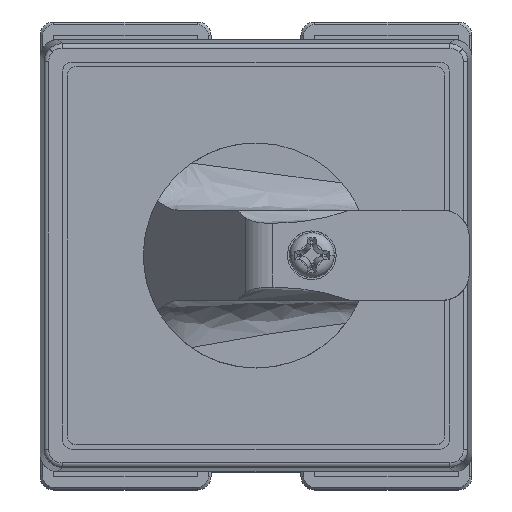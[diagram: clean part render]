
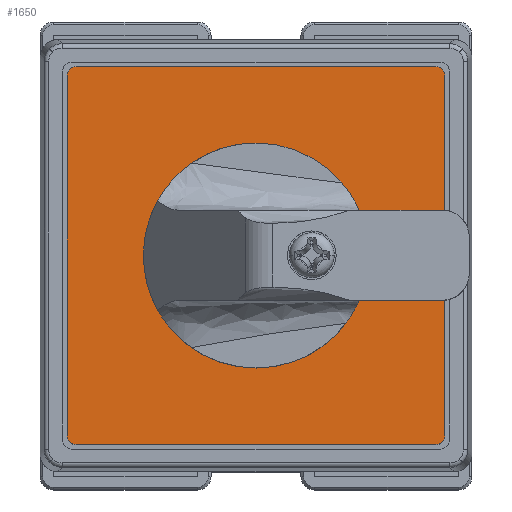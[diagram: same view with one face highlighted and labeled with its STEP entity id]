
A CAD part, top view. The second image highlights one B-rep face of the part: STEP entity #1650.
In plain terms, the highlighted planar face has unit normal (0, 0, 1).
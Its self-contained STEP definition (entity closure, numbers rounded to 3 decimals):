
#804 = CARTESIAN_POINT ( 'NONE',  ( -13.639, -26.111, -124.982 ) ) ;
#1650 = ADVANCED_FACE ( 'NONE', ( #35372, #21874 ), #81310, .T. ) ;
#3899 = ORIENTED_EDGE ( 'NONE', *, *, #147472, .T. ) ;
#4147 = CARTESIAN_POINT ( 'NONE',  ( 6.361, -5.111, -124.982 ) ) ;
#5007 = ORIENTED_EDGE ( 'NONE', *, *, #66554, .F. ) ;
#6147 = CARTESIAN_POINT ( 'NONE',  ( -13.639, 15.889, -124.982 ) ) ;
#8502 = CIRCLE ( 'NONE', #144893, 10.35 ) ;
#10917 = DIRECTION ( 'NONE',  ( 0., 1., 0. ) ) ;
#13484 = ORIENTED_EDGE ( 'NONE', *, *, #111034, .T. ) ;
#13639 = VECTOR ( 'NONE', #142386, 1000. ) ;
#14413 = ORIENTED_EDGE ( 'NONE', *, *, #155216, .T. ) ;
#15467 = VERTEX_POINT ( 'NONE', #98234 ) ;
#15501 = VERTEX_POINT ( 'NONE', #98768 ) ;
#16205 = CARTESIAN_POINT ( 'NONE',  ( -14.639, 14.889, -124.982 ) ) ;
#19109 = DIRECTION ( 'NONE',  ( 0., 0., 1. ) ) ;
#20863 = DIRECTION ( 'NONE',  ( 0., -1., 0. ) ) ;
#21874 = FACE_BOUND ( 'NONE', #124073, .T. ) ;
#22619 = ORIENTED_EDGE ( 'NONE', *, *, #107544, .T. ) ;
#25105 = ORIENTED_EDGE ( 'NONE', *, *, #65645, .T. ) ;
#30646 = AXIS2_PLACEMENT_3D ( 'NONE', #139640, #152090, #41132 ) ;
#31693 = EDGE_LOOP ( 'NONE', ( #14413, #81204, #3899, #25105, #45471, #13484, #22619, #40875 ) ) ;
#33719 = CARTESIAN_POINT ( 'NONE',  ( 6.361, -5.111, -124.982 ) ) ;
#35372 = FACE_OUTER_BOUND ( 'NONE', #31693, .T. ) ;
#35607 = DIRECTION ( 'NONE',  ( 0., 0., 1. ) ) ;
#37114 = CIRCLE ( 'NONE', #76584, 10.35 ) ;
#40369 = AXIS2_PLACEMENT_3D ( 'NONE', #63607, #151240, #126361 ) ;
#40875 = ORIENTED_EDGE ( 'NONE', *, *, #78771, .T. ) ;
#41132 = DIRECTION ( 'NONE',  ( 0., -1., 0. ) ) ;
#42262 = CIRCLE ( 'NONE', #157700, 1. ) ;
#42438 = CARTESIAN_POINT ( 'NONE',  ( 26.361, -26.111, -124.982 ) ) ;
#42923 = DIRECTION ( 'NONE',  ( 0., 0., 1. ) ) ;
#45471 = ORIENTED_EDGE ( 'NONE', *, *, #94293, .T. ) ;
#52172 = DIRECTION ( 'NONE',  ( 0., 0., 1. ) ) ;
#53138 = CARTESIAN_POINT ( 'NONE',  ( 26.361, 15.889, -124.982 ) ) ;
#54148 = VERTEX_POINT ( 'NONE', #16205 ) ;
#54745 = CARTESIAN_POINT ( 'NONE',  ( -13.639, 15.889, -124.982 ) ) ;
#56424 = CIRCLE ( 'NONE', #157659, 1. ) ;
#60073 = VERTEX_POINT ( 'NONE', #142845 ) ;
#63607 = CARTESIAN_POINT ( 'NONE',  ( 26.361, -25.111, -124.982 ) ) ;
#65645 = EDGE_CURVE ( 'NONE', #15501, #96291, #115053, .T. ) ;
#66554 = EDGE_CURVE ( 'NONE', #60073, #15467, #37114, .T. ) ;
#72357 = CIRCLE ( 'NONE', #40369, 1. ) ;
#76584 = AXIS2_PLACEMENT_3D ( 'NONE', #4147, #52172, #90642 ) ;
#78771 = EDGE_CURVE ( 'NONE', #87997, #99779, #79436, .T. ) ;
#78889 = LINE ( 'NONE', #118279, #107950 ) ;
#79426 = VERTEX_POINT ( 'NONE', #125991 ) ;
#79436 = LINE ( 'NONE', #54745, #13639 ) ;
#81204 = ORIENTED_EDGE ( 'NONE', *, *, #85669, .T. ) ;
#81310 = PLANE ( 'NONE',  #122603 ) ;
#85669 = EDGE_CURVE ( 'NONE', #54148, #143689, #78889, .T. ) ;
#87997 = VERTEX_POINT ( 'NONE', #53138 ) ;
#90642 = DIRECTION ( 'NONE',  ( 0., 1., 0. ) ) ;
#94293 = EDGE_CURVE ( 'NONE', #96291, #150560, #72357, .T. ) ;
#95597 = CARTESIAN_POINT ( 'NONE',  ( 27.361, -25.111, -124.982 ) ) ;
#96291 = VERTEX_POINT ( 'NONE', #42438 ) ;
#98234 = CARTESIAN_POINT ( 'NONE',  ( 6.361, -15.461, -124.982 ) ) ;
#98768 = CARTESIAN_POINT ( 'NONE',  ( -13.639, -26.111, -124.982 ) ) ;
#99779 = VERTEX_POINT ( 'NONE', #6147 ) ;
#101189 = ORIENTED_EDGE ( 'NONE', *, *, #159179, .F. ) ;
#107544 = EDGE_CURVE ( 'NONE', #79426, #87997, #157436, .T. ) ;
#107950 = VECTOR ( 'NONE', #20863, 1000. ) ;
#111034 = EDGE_CURVE ( 'NONE', #150560, #79426, #159814, .T. ) ;
#112126 = DIRECTION ( 'NONE',  ( 1., 0., 0. ) ) ;
#115053 = LINE ( 'NONE', #804, #155766 ) ;
#118279 = CARTESIAN_POINT ( 'NONE',  ( -14.639, -25.111, -124.982 ) ) ;
#119876 = CARTESIAN_POINT ( 'NONE',  ( -14.639, -25.111, -124.982 ) ) ;
#120232 = DIRECTION ( 'NONE',  ( 0., 1., 0. ) ) ;
#122603 = AXIS2_PLACEMENT_3D ( 'NONE', #129988, #19109, #130544 ) ;
#122709 = CARTESIAN_POINT ( 'NONE',  ( -13.639, 14.889, -124.982 ) ) ;
#124073 = EDGE_LOOP ( 'NONE', ( #101189, #5007 ) ) ;
#125991 = CARTESIAN_POINT ( 'NONE',  ( 27.361, 14.889, -124.982 ) ) ;
#126361 = DIRECTION ( 'NONE',  ( 0., -1., 0. ) ) ;
#129497 = DIRECTION ( 'NONE',  ( 0., -1., 0. ) ) ;
#129988 = CARTESIAN_POINT ( 'NONE',  ( -13.639, 14.889, -124.982 ) ) ;
#130544 = DIRECTION ( 'NONE',  ( 0., 1., 0. ) ) ;
#139640 = CARTESIAN_POINT ( 'NONE',  ( 26.361, 14.889, -124.982 ) ) ;
#142386 = DIRECTION ( 'NONE',  ( -1., 0., 0. ) ) ;
#142845 = CARTESIAN_POINT ( 'NONE',  ( 6.361, 5.239, -124.982 ) ) ;
#143689 = VERTEX_POINT ( 'NONE', #119876 ) ;
#144124 = DIRECTION ( 'NONE',  ( 0., 0., 1. ) ) ;
#144893 = AXIS2_PLACEMENT_3D ( 'NONE', #33719, #144124, #120232 ) ;
#147472 = EDGE_CURVE ( 'NONE', #143689, #15501, #42262, .T. ) ;
#147776 = CARTESIAN_POINT ( 'NONE',  ( 27.361, -25.111, -124.982 ) ) ;
#148180 = VECTOR ( 'NONE', #10917, 1000. ) ;
#150560 = VERTEX_POINT ( 'NONE', #95597 ) ;
#151240 = DIRECTION ( 'NONE',  ( 0., 0., 1. ) ) ;
#152090 = DIRECTION ( 'NONE',  ( 0., 0., 1. ) ) ;
#153882 = CARTESIAN_POINT ( 'NONE',  ( -13.639, -25.111, -124.982 ) ) ;
#155216 = EDGE_CURVE ( 'NONE', #99779, #54148, #56424, .T. ) ;
#155766 = VECTOR ( 'NONE', #112126, 1000. ) ;
#157436 = CIRCLE ( 'NONE', #30646, 1. ) ;
#157659 = AXIS2_PLACEMENT_3D ( 'NONE', #122709, #35607, #160567 ) ;
#157700 = AXIS2_PLACEMENT_3D ( 'NONE', #153882, #42923, #129497 ) ;
#159179 = EDGE_CURVE ( 'NONE', #15467, #60073, #8502, .T. ) ;
#159814 = LINE ( 'NONE', #147776, #148180 ) ;
#160567 = DIRECTION ( 'NONE',  ( 0., 1., 0. ) ) ;
